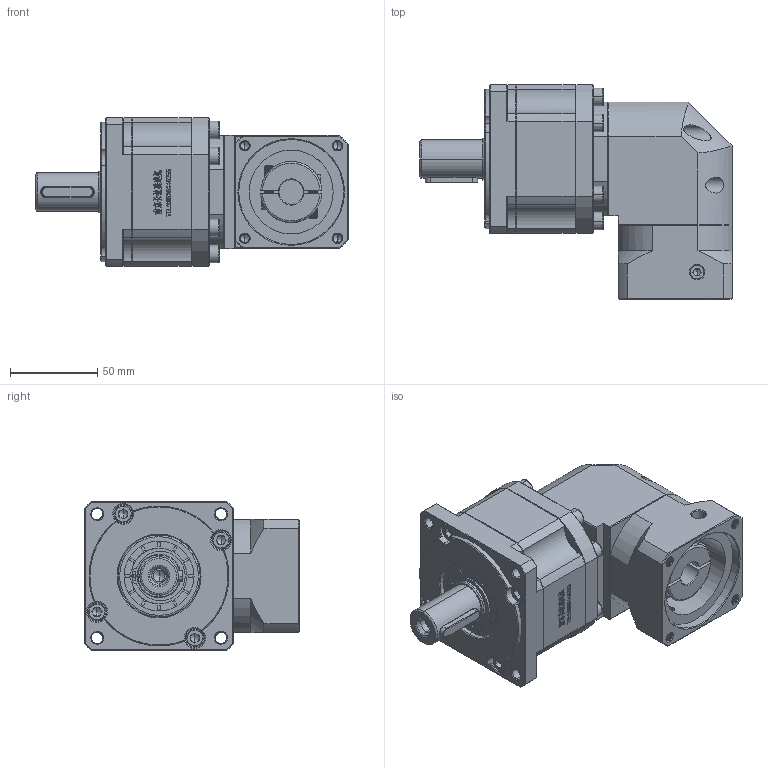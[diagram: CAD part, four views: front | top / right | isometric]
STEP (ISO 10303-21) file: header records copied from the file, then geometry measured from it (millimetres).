
FILE_DESCRIPTION (( 'STEP AP214' ), '1' );
FILE_NAME ('ZBR90-D22-L2-14-60-75-M6.step', '2022-05-07T15:20:25', ( '' ), ( 'Microsoft' ), 'SwSTEP 2.0', 'SolidWorks 2016', '' );
FILE_SCHEMA (( 'AUTOMOTIVE_DESIGN' ));
Length unit declared in the file: millimetre
Products named in the file (1): ZBR90-D22-L2-14-60-75-M6
Bounding box: 178.5 x 122.7 x 85 mm (x, y, z)
Volume: 816044.9 mm3; surface area: 101472.5 mm2
Topology: 5 solids, 5 shells, 3035 faces, 8150 edges, 5259 vertices
Faces by surface type: plane 1598, bspline 608, cylinder 441, cone 368, torus 20
Entity records: 163077 total; most frequent: CARTESIAN_POINT 58230, ORIENTED_EDGE 16208, DIRECTION 12527, EDGE_CURVE 8104, VECTOR 5357, LINE 5357, VERTEX_POINT 5259, AXIS2_PLACEMENT_3D 3585
